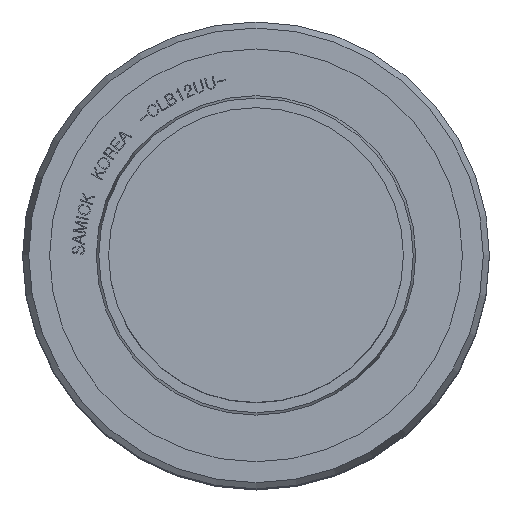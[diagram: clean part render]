
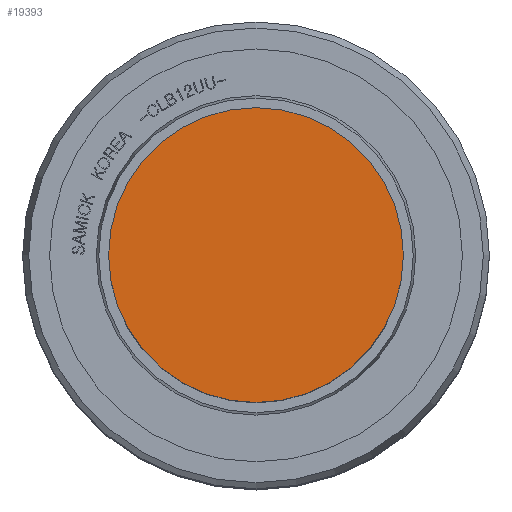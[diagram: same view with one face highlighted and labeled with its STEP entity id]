
A CAD part, top view. The second image highlights one B-rep face of the part: STEP entity #19393.
In plain terms, the highlighted planar face has unit normal (0, 0, 1).
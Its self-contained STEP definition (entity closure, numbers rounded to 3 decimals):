
#744=PLANE('',#20523);
#2518=FACE_OUTER_BOUND('',#3576,.T.);
#3576=EDGE_LOOP('',(#12672));
#7473=CIRCLE('',#20519,6.);
#7717=VERTEX_POINT('',#24043);
#9688=EDGE_CURVE('',#7717,#7717,#7473,.T.);
#12672=ORIENTED_EDGE('',*,*,#9688,.T.);
#19393=ADVANCED_FACE('',(#2518),#744,.F.);
#20519=AXIS2_PLACEMENT_3D('',#24045,#21254,#21255);
#20523=AXIS2_PLACEMENT_3D('',#24052,#21263,#21264);
#21254=DIRECTION('center_axis',(0.,0.,1.));
#21255=DIRECTION('ref_axis',(1.,0.,0.));
#21263=DIRECTION('center_axis',(0.,0.,-1.));
#21264=DIRECTION('ref_axis',(-1.,0.,0.));
#24043=CARTESIAN_POINT('',(-6.,0.,21.));
#24045=CARTESIAN_POINT('Origin',(0.,0.,
21.));
#24052=CARTESIAN_POINT('Origin',(0.,0.,
21.));
